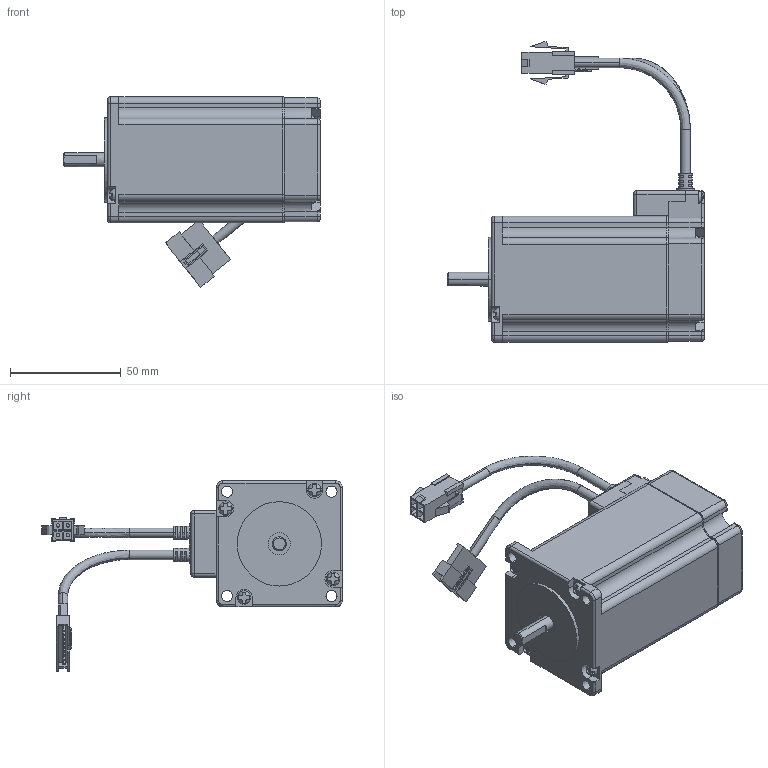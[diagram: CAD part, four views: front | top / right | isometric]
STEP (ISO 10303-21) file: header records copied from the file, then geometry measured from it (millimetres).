
FILE_DESCRIPTION (( 'STEP AP203' ), '1' );
FILE_NAME ('P1A-MO-056-03-R00.STEP', '2015-08-11T02:52:30', ( '' ), ( '' ), 'SwSTEP 2.0', 'SolidWorks 2013', '' );
FILE_SCHEMA (( 'CONFIG_CONTROL_DESIGN' ));
Length unit declared in the file: millimetre
Products named in the file (7): 42陝 賅攪瞪錳摹_ル遽; 42阿 浚内歹 纳捞喉急_钎霖; round cross head screw_ks_KS 1023 RC - M3 x 12-N; M11-MO-056-03-R01; P1A-MO-056-03-R00; M1A-EC-056-01-R00_ル遽; M1A-EC-056-02-R00_ル遽
Assembly tree (11 placements, depth 2):
  P1A-MO-056-03-R00
    M1A-EC-056-01-R00_ル遽
    M1A-EC-056-02-R00_ル遽
    42陝 賅攪瞪錳摹_ル遽
    42阿 浚内歹 纳捞喉急_钎霖
    round cross head screw_ks_KS 1023 RC - M3 x 12-N  x6
    M11-MO-056-03-R01
Bounding box: 116 x 135.91 x 86.05 mm (x, y, z)
Volume: 254366.8 mm3; surface area: 50850.9 mm2
Topology: 11 solids, 11 shells, 937 faces, 2443 edges, 1561 vertices
Faces by surface type: plane 539, cylinder 245, cone 75, torus 52, sphere 14, bspline 12
Entity records: 25326 total; most frequent: CARTESIAN_POINT 4836, DIRECTION 4196, ORIENTED_EDGE 4062, EDGE_CURVE 2031, AXIS2_PLACEMENT_3D 1452, VERTEX_POINT 1316, LINE 1292, VECTOR 1292
